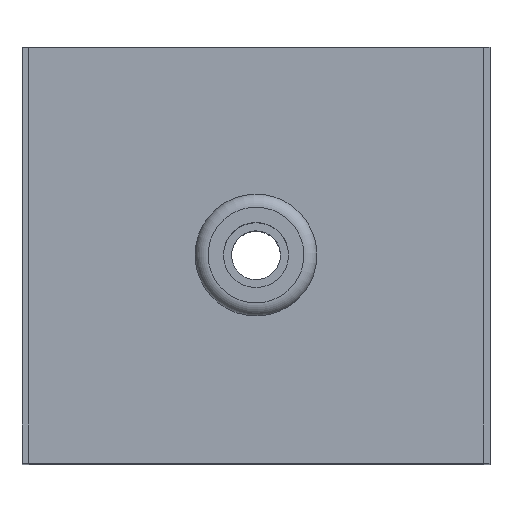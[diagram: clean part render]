
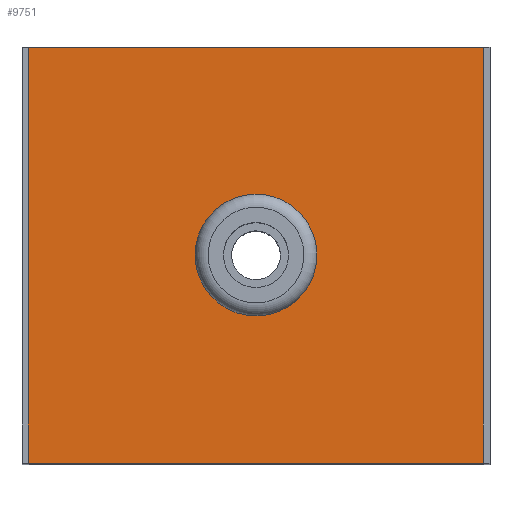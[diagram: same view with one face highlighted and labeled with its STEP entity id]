
A CAD part, top view. The second image highlights one B-rep face of the part: STEP entity #9751.
In plain terms, the highlighted planar face has unit normal (0, 0, 1).
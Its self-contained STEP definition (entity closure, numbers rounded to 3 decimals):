
#120=FACE_BOUND('',#2068,.T.);
#121=FACE_BOUND('',#2069,.T.);
#228=PLANE('',#9994);
#327=CIRCLE('',#9983,0.938);
#517=LINE('',#37470,#733);
#519=LINE('',#37474,#735);
#520=LINE('',#37476,#736);
#521=LINE('',#37477,#737);
#733=VECTOR('',#10554,8.75);
#735=VECTOR('',#10558,8.);
#736=VECTOR('',#10559,8.75);
#737=VECTOR('',#10560,8.);
#2068=EDGE_LOOP('',(#7775));
#2069=EDGE_LOOP('',(#7776,#7777,#7778,#7779));
#3844=VERTEX_POINT('',#37431);
#3857=VERTEX_POINT('',#37467);
#3858=VERTEX_POINT('',#37469);
#3859=VERTEX_POINT('',#37473);
#3860=VERTEX_POINT('',#37475);
#5165=EDGE_CURVE('',#3844,#3844,#327,.T.);
#5183=EDGE_CURVE('',#3858,#3857,#517,.T.);
#5185=EDGE_CURVE('',#3857,#3859,#519,.T.);
#5186=EDGE_CURVE('',#3860,#3859,#520,.T.);
#5187=EDGE_CURVE('',#3858,#3860,#521,.T.);
#7775=ORIENTED_EDGE('',*,*,#5165,.T.);
#7776=ORIENTED_EDGE('',*,*,#5185,.T.);
#7777=ORIENTED_EDGE('',*,*,#5186,.F.);
#7778=ORIENTED_EDGE('',*,*,#5187,.F.);
#7779=ORIENTED_EDGE('',*,*,#5183,.T.);
#9751=ADVANCED_FACE('',(#120,#121),#228,.T.);
#9983=AXIS2_PLACEMENT_3D('',#37432,#10519,#10520);
#9994=AXIS2_PLACEMENT_3D('',#37472,#10556,#10557);
#10519=DIRECTION('center_axis',(0.,0.,-1.));
#10520=DIRECTION('ref_axis',(-1.,0.,0.));
#10554=DIRECTION('',(-1.,0.,0.));
#10556=DIRECTION('center_axis',(0.,0.,1.));
#10557=DIRECTION('ref_axis',(-1.,0.,0.));
#10558=DIRECTION('',(0.,-1.,0.));
#10559=DIRECTION('',(-1.,0.,0.));
#10560=DIRECTION('',(0.,-1.,0.));
#37431=CARTESIAN_POINT('',(-0.938,0.,0.));
#37432=CARTESIAN_POINT('Origin',(0.,0.,0.));
#37467=CARTESIAN_POINT('',(-4.375,4.,0.));
#37469=CARTESIAN_POINT('',(4.375,4.,0.));
#37470=CARTESIAN_POINT('',(4.375,4.,0.));
#37472=CARTESIAN_POINT('Origin',(4.375,4.,0.));
#37473=CARTESIAN_POINT('',(-4.375,-4.,0.));
#37474=CARTESIAN_POINT('',(-4.375,2.,0.));
#37475=CARTESIAN_POINT('',(4.375,-4.,0.));
#37476=CARTESIAN_POINT('',(4.375,-4.,0.));
#37477=CARTESIAN_POINT('',(4.375,2.,0.));
